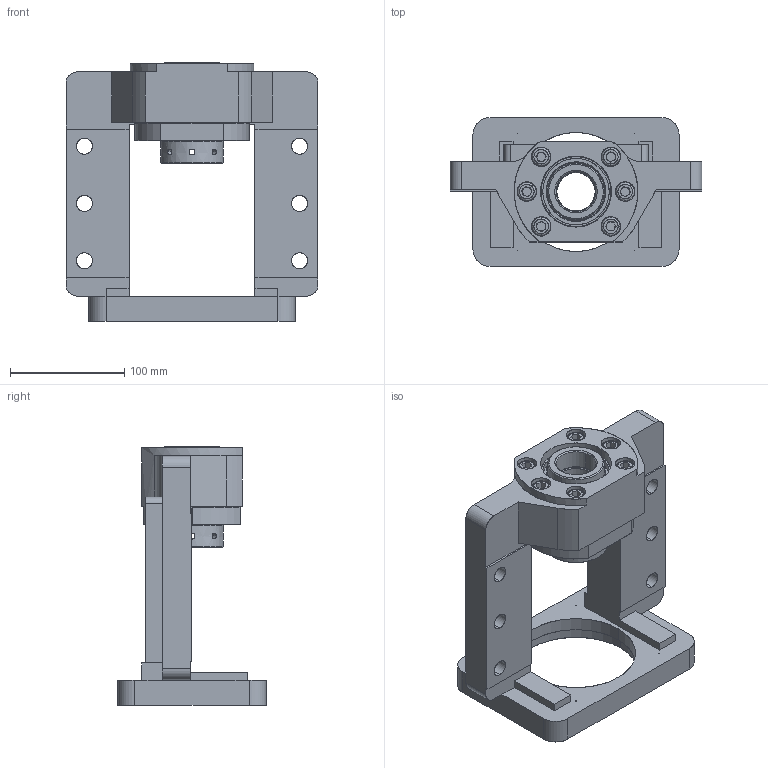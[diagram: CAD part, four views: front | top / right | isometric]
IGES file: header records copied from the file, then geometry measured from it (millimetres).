
Start section: SolidWorks IGES file using analytic representation for surfaces
Global section: file name: C:\Users\044\Desktop\快捷\MBCS35L-G.IGS,1; native system: 5HSolidWorks 2018; preprocessor: SolidWorks 2018; author: 044; date: 241018.144127; units: millimetre
Bounding box: 220 x 130 x 226 mm (x, y, z)
Surface area: 210892 mm2 (no closed solid volume)
Topology: 0 solids, 0 shells, 346 faces, 6186 edges, 6178 vertices
Faces by surface type: revolution 193, bspline 153
